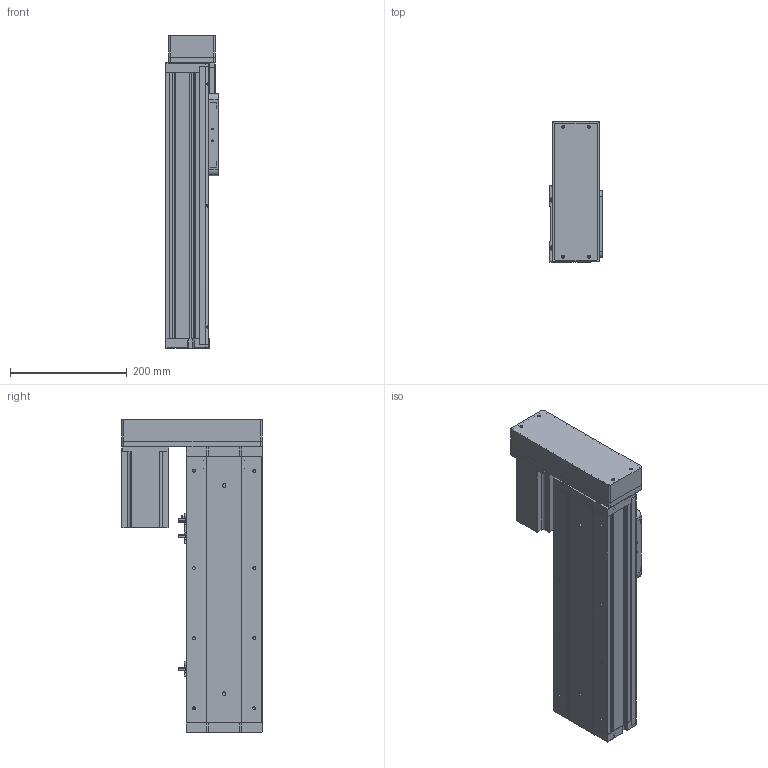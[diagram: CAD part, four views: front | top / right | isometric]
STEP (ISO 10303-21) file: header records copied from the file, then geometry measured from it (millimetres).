
FILE_DESCRIPTION (( 'STEP AP214' ), '1' );
FILE_NAME ('KSD130S-P2010-ML-CR-S250.STEP', '2019-09-24T03:57:28', ( '微软用户' ), ( '微软中国' ), 'SwSTEP 2.0', 'SolidWorks 2014', '' );
FILE_SCHEMA (( 'AUTOMOTIVE_DESIGN' ));
Length unit declared in the file: millimetre
Products named in the file (14): 130遵裔啣揤啣1; 130宽盖板全封闭-250行程; 130宽滚珠螺姆安装板1防护罩; 130宽滚珠螺姆安装板1; 130宽侧板全封闭-250行程; 130宽全封闭马达安装板丝杠; 130宽全封闭端盖丝杠; 台达ECMA－C20807AS伺服电机; 130宽底板全封闭丝杠-250行程; KSD130S-P2010-ML-CR-S250; 130宽模组马达安装板连板左右折丝杆; 感应片130宽全封闭; 130宽模组保护罩左右折; U倰嫖萇EEㄜSX672
Assembly tree (17 placements, depth 2):
  KSD130S-P2010-ML-CR-S250
    130宽底板全封闭丝杠-250行程
    130宽全封闭端盖丝杠
    130宽全封闭马达安装板丝杠
    130宽侧板全封闭-250行程  x2
    130宽滚珠螺姆安装板1
    130宽滚珠螺姆安装板1防护罩
    130宽盖板全封闭-250行程
    130遵裔啣揤啣1  x2
    U倰嫖萇EEㄜSX672  x3
    感应片130宽全封闭
    130宽模组马达安装板连板左右折丝杆
    台达ECMA－C20807AS伺服电机
    130宽模组保护罩左右折
Bounding box: 90 x 240 x 534.5 mm (x, y, z)
Volume: 2647767.8 mm3; surface area: 775566.9 mm2
Topology: 18 solids, 18 shells, 1374 faces, 3756 edges, 2391 vertices
Faces by surface type: plane 611, cylinder 592, cone 171
Entity records: 41382 total; most frequent: DIRECTION 6287, CARTESIAN_POINT 6259, ORIENTED_EDGE 5878, EDGE_CURVE 2939, AXIS2_PLACEMENT_3D 2235, VERTEX_POINT 1921, VECTOR 1817, LINE 1817
